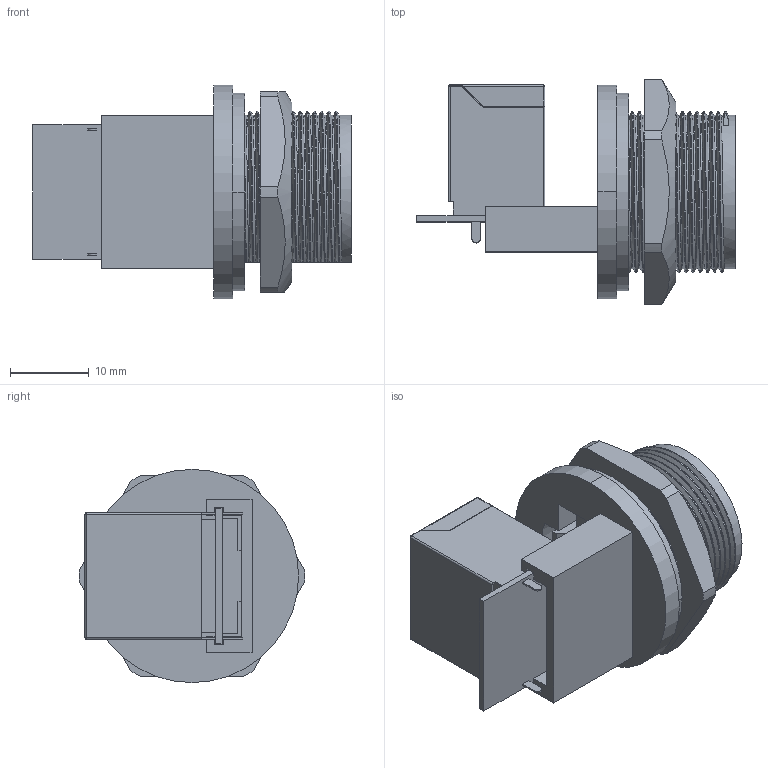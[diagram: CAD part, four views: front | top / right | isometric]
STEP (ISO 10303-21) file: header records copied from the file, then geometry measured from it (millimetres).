
FILE_DESCRIPTION(/* description */ (''),/* implementation_level */ '2;1');
FILE_NAME(/* name */ 'E13T-FR6-PRF-90-C130206-00006.stp',/* time_stamp */ '2024-09-13T15:53:38+08:00',/* author */ (''),/* organization */ (''),/* preprocessor_version */ 'ST-DEVELOPER v16.7',/* originating_system */ 'SIEMENS PLM Software NX 1847',/* authorisation */ '');
FILE_SCHEMA (('AUTOMOTIVE_DESIGN { 1 0 10303 214 3 1 1 1 }'));
Length unit declared in the file: millimetre
Products named in the file (1): Admi0D08E62Cqbp8
Bounding box: 40.3 x 28.6 x 27 mm (x, y, z)
Volume: 7756 mm3; surface area: 10389.7 mm2
Topology: 1 solids, 1 shells, 441 faces, 1306 edges, 857 vertices
Faces by surface type: plane 304, cylinder 88, bspline 44, sphere 4, cone 1
Entity records: 26790 total; most frequent: CARTESIAN_POINT 15141, ORIENTED_EDGE 2600, DIRECTION 2134, EDGE_CURVE 1300, LINE 988, VECTOR 988, VERTEX_POINT 856, AXIS2_PLACEMENT_3D 573
